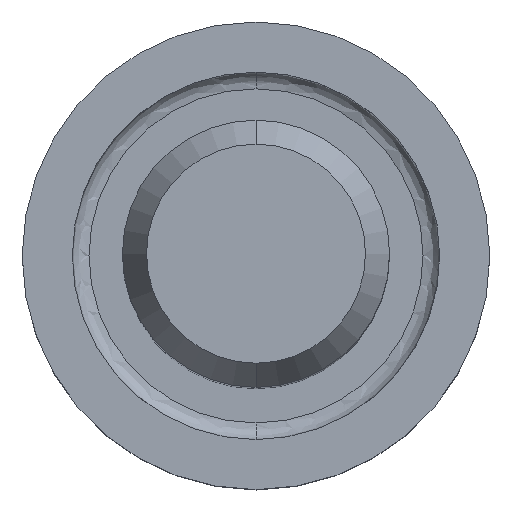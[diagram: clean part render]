
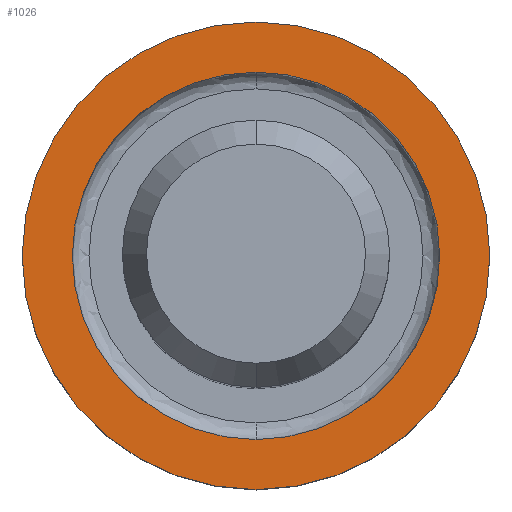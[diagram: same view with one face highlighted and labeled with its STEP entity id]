
A CAD part, top view. The second image highlights one B-rep face of the part: STEP entity #1026.
In plain terms, the highlighted free-form (B-spline) face has degree [1, 1] with [2, 2] control points.
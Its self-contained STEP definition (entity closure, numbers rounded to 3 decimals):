
#145=CARTESIAN_POINT('',(0.,0.,-73.));
#146=DIRECTION('',(0.,0.,-1.));
#147=DIRECTION('',(0.,-1.,0.));
#148=AXIS2_PLACEMENT_3D('',#145,#146,#147);
#150=CARTESIAN_POINT('',(0.,0.,-73.));
#151=DIRECTION('',(0.,0.,1.));
#152=DIRECTION('',(0.,-1.,0.));
#153=AXIS2_PLACEMENT_3D('',#150,#151,#152);
#155=CARTESIAN_POINT('',(0.,0.,-73.));
#156=DIRECTION('',(0.,0.,1.));
#157=DIRECTION('',(0.,1.,0.));
#158=AXIS2_PLACEMENT_3D('',#155,#156,#157);
#160=CARTESIAN_POINT('',(0.,0.,-73.));
#161=DIRECTION('',(0.,0.,1.));
#162=DIRECTION('',(0.,-1.,0.));
#163=AXIS2_PLACEMENT_3D('',#160,#161,#162);
#260=CARTESIAN_POINT('',(0.,14.,-73.));
#262=VERTEX_POINT('',#260);
#264=CARTESIAN_POINT('',(0.,-14.,-73.));
#266=VERTEX_POINT('',#264);
#288=CARTESIAN_POINT('',(0.,11.,-73.));
#289=CARTESIAN_POINT('',(0.,-11.,-73.));
#290=VERTEX_POINT('',#288);
#291=VERTEX_POINT('',#289);
#1010=CARTESIAN_POINT('',(14.56,14.56,-73.));
#1011=CARTESIAN_POINT('',(-14.56,14.56,-73.));
#1012=CARTESIAN_POINT('',(14.56,-14.56,-73.));
#1013=CARTESIAN_POINT('',(-14.56,-14.56,-73.));
#1014=B_SPLINE_SURFACE_WITH_KNOTS('',1,1,((#1010,#1011),(#1012,#1013)),
.UNSPECIFIED.,.F.,.F.,.F.,(2,2),(2,2),(-14.56,14.56),(-14.56,14.56),
.UNSPECIFIED.);
#1016=ORIENTED_EDGE('',*,*,#1015,.T.);
#1018=ORIENTED_EDGE('',*,*,#1017,.F.);
#1019=EDGE_LOOP('',(#1016,#1018));
#1020=FACE_OUTER_BOUND('',#1019,.F.);
#1021=ORIENTED_EDGE('',*,*,#993,.T.);
#1023=ORIENTED_EDGE('',*,*,#1022,.T.);
#1024=EDGE_LOOP('',(#1021,#1023));
#1025=FACE_BOUND('',#1024,.F.);
#149=CIRCLE('',#148,14.);
#154=CIRCLE('',#153,14.);
#159=CIRCLE('',#158,11.);
#164=CIRCLE('',#163,11.);
#993=EDGE_CURVE('',#290,#291,#159,.T.);
#1015=EDGE_CURVE('',#266,#262,#149,.T.);
#1017=EDGE_CURVE('',#266,#262,#154,.T.);
#1022=EDGE_CURVE('',#291,#290,#164,.T.);
#1026=ADVANCED_FACE('',(#1020,#1025),#1014,.F.);
